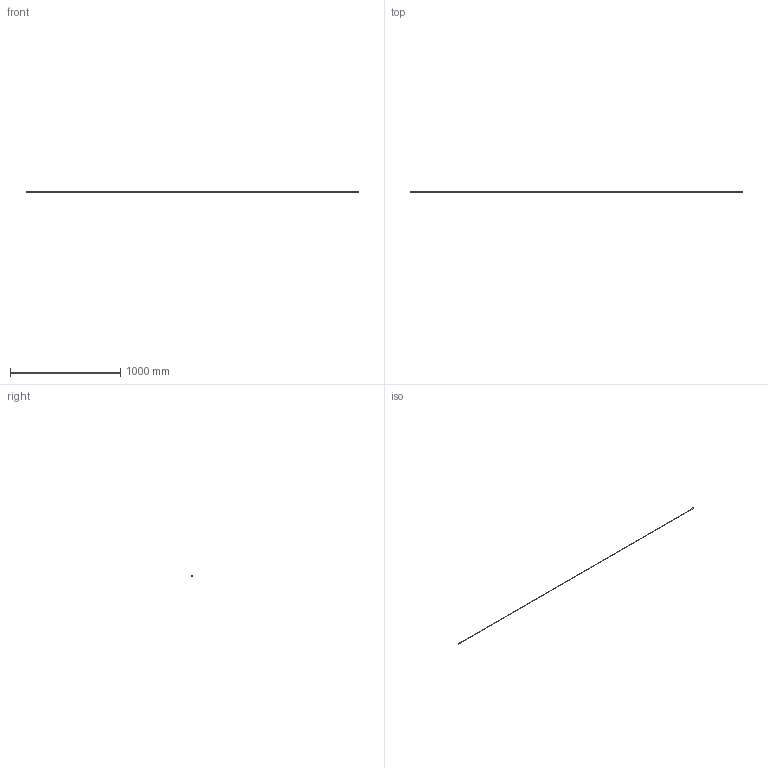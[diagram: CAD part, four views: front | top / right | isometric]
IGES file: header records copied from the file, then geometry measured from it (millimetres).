
Start section: SolidWorks IGES file using analytic representation for surfaces
Global section: file name: D:\Data\0 ASSEMBLY\641 90065 MERLONI 9x49 di 0,34 10k\SW_NTCACAPE3C90065a 3D\NTCACAPE3C90065.IGS; native system: SolidWorks 2014; preprocessor: SolidWorks 2014; author: rwacheux; date: 140908.121123; units: millimetre
Bounding box: 3008 x 9 x 9 mm (x, y, z)
Surface area: 38454.2 mm2 (no closed solid volume)
Topology: 0 solids, 0 shells, 27 faces, 280 edges, 280 vertices
Faces by surface type: bspline 15, revolution 12
